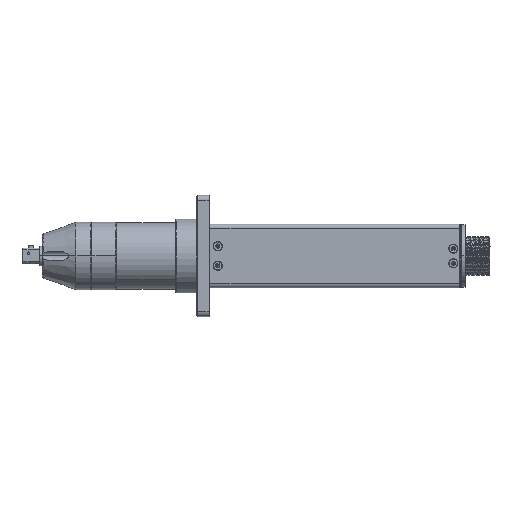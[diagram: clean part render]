
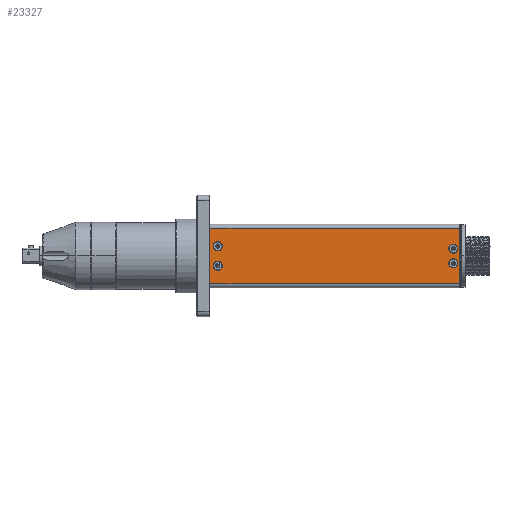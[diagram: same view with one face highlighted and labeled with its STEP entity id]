
A CAD part, top view. The second image highlights one B-rep face of the part: STEP entity #23327.
In plain terms, the highlighted planar face has unit normal (0, 0, 1).
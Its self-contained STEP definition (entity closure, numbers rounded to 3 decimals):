
#75 = DIRECTION ( 'NONE',  ( 1., 0., 0. ) ) ;
#404 = CARTESIAN_POINT ( 'NONE',  ( 220.9, 4.5, 19.4 ) ) ;
#739 = EDGE_CURVE ( 'NONE', #28208, #1702, #3053, .T. ) ;
#865 = CARTESIAN_POINT ( 'NONE',  ( 218.15, 4.5, 19.4 ) ) ;
#1169 = DIRECTION ( 'NONE',  ( -1., 0., 0. ) ) ;
#1286 = EDGE_CURVE ( 'NONE', #11961, #2074, #17732, .T. ) ;
#1344 = CARTESIAN_POINT ( 'NONE',  ( 224.8, 19.4, 19.4 ) ) ;
#1467 = EDGE_LOOP ( 'NONE', ( #5644, #19327 ) ) ;
#1702 = VERTEX_POINT ( 'NONE', #4066 ) ;
#1920 = EDGE_LOOP ( 'NONE', ( #17337, #21590 ) ) ;
#2017 = EDGE_CURVE ( 'NONE', #11907, #27080, #7649, .T. ) ;
#2074 = VERTEX_POINT ( 'NONE', #21793 ) ;
#3053 = LINE ( 'NONE', #9422, #14882 ) ;
#3222 = CARTESIAN_POINT ( 'NONE',  ( 220.9, -4.5, 19.4 ) ) ;
#3265 = FACE_BOUND ( 'NONE', #1920, .T. ) ;
#3302 = LINE ( 'NONE', #3464, #17119 ) ;
#3464 = CARTESIAN_POINT ( 'NONE',  ( 72.3, 19.4, 19.4 ) ) ;
#3498 = DIRECTION ( 'NONE',  ( 0., 0., 1. ) ) ;
#3798 = CARTESIAN_POINT ( 'NONE',  ( 72.3, 17., 19.4 ) ) ;
#3858 = EDGE_CURVE ( 'NONE', #15100, #25008, #27945, .T. ) ;
#3862 = EDGE_CURVE ( 'NONE', #25008, #15100, #18798, .T. ) ;
#3941 = ORIENTED_EDGE ( 'NONE', *, *, #739, .T. ) ;
#4066 = CARTESIAN_POINT ( 'NONE',  ( 224.8, -17., 19.4 ) ) ;
#4869 = VECTOR ( 'NONE', #8994, 1000. ) ;
#4972 = EDGE_CURVE ( 'NONE', #17545, #5667, #24938, .T. ) ;
#5092 = FACE_BOUND ( 'NONE', #8290, .T. ) ;
#5280 = DIRECTION ( 'NONE',  ( 0., 0., 1. ) ) ;
#5304 = ORIENTED_EDGE ( 'NONE', *, *, #26342, .F. ) ;
#5644 = ORIENTED_EDGE ( 'NONE', *, *, #6815, .F. ) ;
#5667 = VERTEX_POINT ( 'NONE', #3798 ) ;
#5675 = CARTESIAN_POINT ( 'NONE',  ( 148.55, 0., 19.4 ) ) ;
#6290 = CARTESIAN_POINT ( 'NONE',  ( 220.9, -4.5, 19.4 ) ) ;
#6815 = EDGE_CURVE ( 'NONE', #25842, #12275, #22281, .T. ) ;
#7065 = CIRCLE ( 'NONE', #23907, 2.75 ) ;
#7330 = CARTESIAN_POINT ( 'NONE',  ( 77.1, -6., 19.4 ) ) ;
#7545 = DIRECTION ( 'NONE',  ( 1., 0., 0. ) ) ;
#7649 = CIRCLE ( 'NONE', #10095, 2.75 ) ;
#7691 = DIRECTION ( 'NONE',  ( 0., 0., 1. ) ) ;
#7956 = FACE_BOUND ( 'NONE', #28593, .T. ) ;
#8290 = EDGE_LOOP ( 'NONE', ( #10492, #27798 ) ) ;
#8687 = AXIS2_PLACEMENT_3D ( 'NONE', #3222, #12436, #16643 ) ;
#8994 = DIRECTION ( 'NONE',  ( -1., 0., 0. ) ) ;
#9018 = EDGE_CURVE ( 'NONE', #12275, #25842, #28034, .T. ) ;
#9422 = CARTESIAN_POINT ( 'NONE',  ( 148.55, -17., 19.4 ) ) ;
#9615 = DIRECTION ( 'NONE',  ( 1., 0., 0. ) ) ;
#10095 = AXIS2_PLACEMENT_3D ( 'NONE', #404, #21483, #9615 ) ;
#10492 = ORIENTED_EDGE ( 'NONE', *, *, #16330, .F. ) ;
#11266 = CARTESIAN_POINT ( 'NONE',  ( 72.3, -17., 19.4 ) ) ;
#11826 = ORIENTED_EDGE ( 'NONE', *, *, #4972, .T. ) ;
#11829 = DIRECTION ( 'NONE',  ( 1., 0., 0. ) ) ;
#11907 = VERTEX_POINT ( 'NONE', #865 ) ;
#11961 = VERTEX_POINT ( 'NONE', #29649 ) ;
#12103 = AXIS2_PLACEMENT_3D ( 'NONE', #28310, #7691, #7545 ) ;
#12275 = VERTEX_POINT ( 'NONE', #19849 ) ;
#12436 = DIRECTION ( 'NONE',  ( 0., 0., 1. ) ) ;
#12515 = DIRECTION ( 'NONE',  ( 0., 1., 0. ) ) ;
#12632 = FACE_BOUND ( 'NONE', #1467, .T. ) ;
#13000 = DIRECTION ( 'NONE',  ( 1., 0., 0. ) ) ;
#13103 = DIRECTION ( 'NONE',  ( 1., 0., 0. ) ) ;
#13934 = ORIENTED_EDGE ( 'NONE', *, *, #27233, .F. ) ;
#14263 = VECTOR ( 'NONE', #23944, 1000. ) ;
#14882 = VECTOR ( 'NONE', #11829, 1000. ) ;
#14949 = CARTESIAN_POINT ( 'NONE',  ( 220.9, 4.5, 19.4 ) ) ;
#14991 = AXIS2_PLACEMENT_3D ( 'NONE', #21250, #5280, #21858 ) ;
#15100 = VERTEX_POINT ( 'NONE', #27172 ) ;
#15662 = DIRECTION ( 'NONE',  ( 0., 0., 1. ) ) ;
#16330 = EDGE_CURVE ( 'NONE', #2074, #11961, #17304, .T. ) ;
#16519 = DIRECTION ( 'NONE',  ( 0., 0., 1. ) ) ;
#16608 = AXIS2_PLACEMENT_3D ( 'NONE', #5675, #21799, #1169 ) ;
#16643 = DIRECTION ( 'NONE',  ( 1., 0., 0. ) ) ;
#17119 = VECTOR ( 'NONE', #12515, 1000. ) ;
#17129 = FACE_OUTER_BOUND ( 'NONE', #26207, .T. ) ;
#17304 = CIRCLE ( 'NONE', #8687, 2.75 ) ;
#17337 = ORIENTED_EDGE ( 'NONE', *, *, #3858, .F. ) ;
#17545 = VERTEX_POINT ( 'NONE', #19635 ) ;
#17732 = CIRCLE ( 'NONE', #19681, 2.75 ) ;
#17853 = CARTESIAN_POINT ( 'NONE',  ( 148.55, 17., 19.4 ) ) ;
#18542 = CARTESIAN_POINT ( 'NONE',  ( 79.85, -6., 19.4 ) ) ;
#18798 = CIRCLE ( 'NONE', #12103, 2.75 ) ;
#19127 = CARTESIAN_POINT ( 'NONE',  ( 74.35, 6., 19.4 ) ) ;
#19327 = ORIENTED_EDGE ( 'NONE', *, *, #9018, .F. ) ;
#19635 = CARTESIAN_POINT ( 'NONE',  ( 224.8, 17., 19.4 ) ) ;
#19681 = AXIS2_PLACEMENT_3D ( 'NONE', #6290, #15662, #13103 ) ;
#19709 = LINE ( 'NONE', #1344, #14263 ) ;
#19849 = CARTESIAN_POINT ( 'NONE',  ( 74.35, -6., 19.4 ) ) ;
#20874 = DIRECTION ( 'NONE',  ( 0., 0., 1. ) ) ;
#21250 = CARTESIAN_POINT ( 'NONE',  ( 77.1, 6., 19.4 ) ) ;
#21483 = DIRECTION ( 'NONE',  ( 0., 0., 1. ) ) ;
#21590 = ORIENTED_EDGE ( 'NONE', *, *, #3862, .F. ) ;
#21793 = CARTESIAN_POINT ( 'NONE',  ( 223.65, -4.5, 19.4 ) ) ;
#21799 = DIRECTION ( 'NONE',  ( 0., 0., -1. ) ) ;
#21858 = DIRECTION ( 'NONE',  ( 1., 0., 0. ) ) ;
#22105 = CARTESIAN_POINT ( 'NONE',  ( 77.1, -6., 19.4 ) ) ;
#22281 = CIRCLE ( 'NONE', #23708, 2.75 ) ;
#23327 = ADVANCED_FACE ( 'NONE', ( #3265, #12632, #5092, #7956, #17129 ), #26005, .F. ) ;
#23708 = AXIS2_PLACEMENT_3D ( 'NONE', #22105, #20874, #75 ) ;
#23907 = AXIS2_PLACEMENT_3D ( 'NONE', #14949, #3498, #13000 ) ;
#23944 = DIRECTION ( 'NONE',  ( 0., -1., 0. ) ) ;
#24513 = EDGE_CURVE ( 'NONE', #28208, #5667, #3302, .T. ) ;
#24761 = ORIENTED_EDGE ( 'NONE', *, *, #2017, .F. ) ;
#24938 = LINE ( 'NONE', #17853, #4869 ) ;
#25008 = VERTEX_POINT ( 'NONE', #19127 ) ;
#25842 = VERTEX_POINT ( 'NONE', #18542 ) ;
#26005 = PLANE ( 'NONE',  #16608 ) ;
#26126 = AXIS2_PLACEMENT_3D ( 'NONE', #7330, #16519, #28240 ) ;
#26207 = EDGE_LOOP ( 'NONE', ( #29025, #3941, #5304, #11826 ) ) ;
#26342 = EDGE_CURVE ( 'NONE', #17545, #1702, #19709, .T. ) ;
#27080 = VERTEX_POINT ( 'NONE', #28187 ) ;
#27172 = CARTESIAN_POINT ( 'NONE',  ( 79.85, 6., 19.4 ) ) ;
#27233 = EDGE_CURVE ( 'NONE', #27080, #11907, #7065, .T. ) ;
#27798 = ORIENTED_EDGE ( 'NONE', *, *, #1286, .F. ) ;
#27945 = CIRCLE ( 'NONE', #14991, 2.75 ) ;
#28034 = CIRCLE ( 'NONE', #26126, 2.75 ) ;
#28187 = CARTESIAN_POINT ( 'NONE',  ( 223.65, 4.5, 19.4 ) ) ;
#28208 = VERTEX_POINT ( 'NONE', #11266 ) ;
#28240 = DIRECTION ( 'NONE',  ( 1., 0., 0. ) ) ;
#28310 = CARTESIAN_POINT ( 'NONE',  ( 77.1, 6., 19.4 ) ) ;
#28593 = EDGE_LOOP ( 'NONE', ( #13934, #24761 ) ) ;
#29025 = ORIENTED_EDGE ( 'NONE', *, *, #24513, .F. ) ;
#29649 = CARTESIAN_POINT ( 'NONE',  ( 218.15, -4.5, 19.4 ) ) ;
